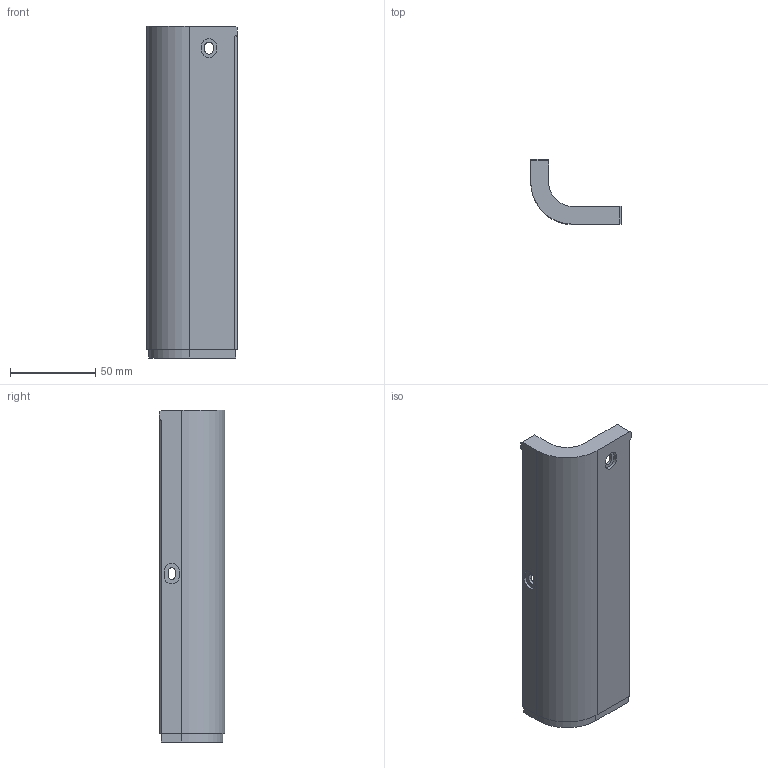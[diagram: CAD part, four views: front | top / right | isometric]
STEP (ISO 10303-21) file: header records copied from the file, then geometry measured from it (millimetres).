
FILE_DESCRIPTION (( 'STEP AP203' ), '1' );
FILE_NAME ('誘啣C1.STEP', '2024-01-02T07:31:41', ( '' ), ( '' ), 'SwSTEP 2.0', 'SolidWorks 2014', '' );
FILE_SCHEMA (( 'CONFIG_CONTROL_DESIGN' ));
Length unit declared in the file: millimetre
Products named in the file (1): 誘啣C1
Bounding box: 53.2 x 38.2 x 194.75 mm (x, y, z)
Volume: 52438.9 mm3; surface area: 33297.6 mm2
Topology: 1 solids, 1 shells, 89 faces, 237 edges, 158 vertices
Faces by surface type: plane 56, cylinder 23, bspline 10
Entity records: 3438 total; most frequent: CARTESIAN_POINT 1151, ORIENTED_EDGE 474, DIRECTION 423, EDGE_CURVE 237, VECTOR 171, LINE 171, VERTEX_POINT 158, AXIS2_PLACEMENT_3D 126
